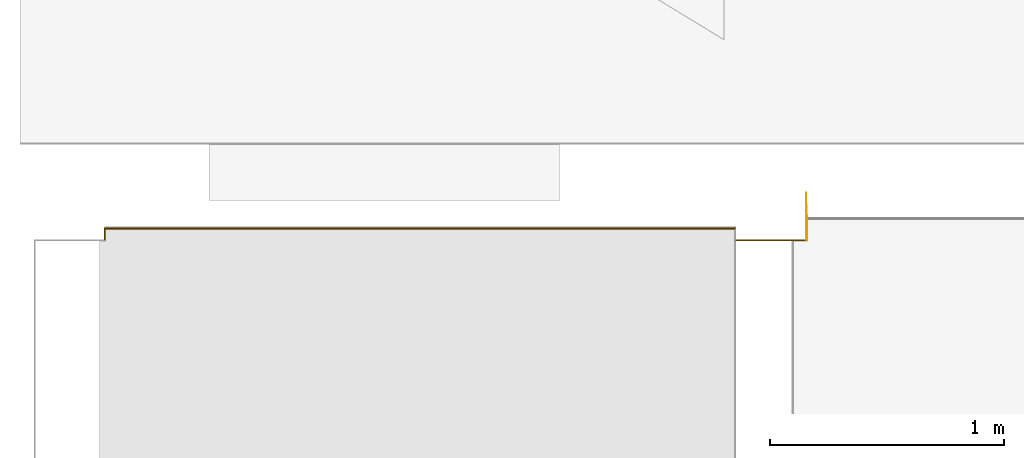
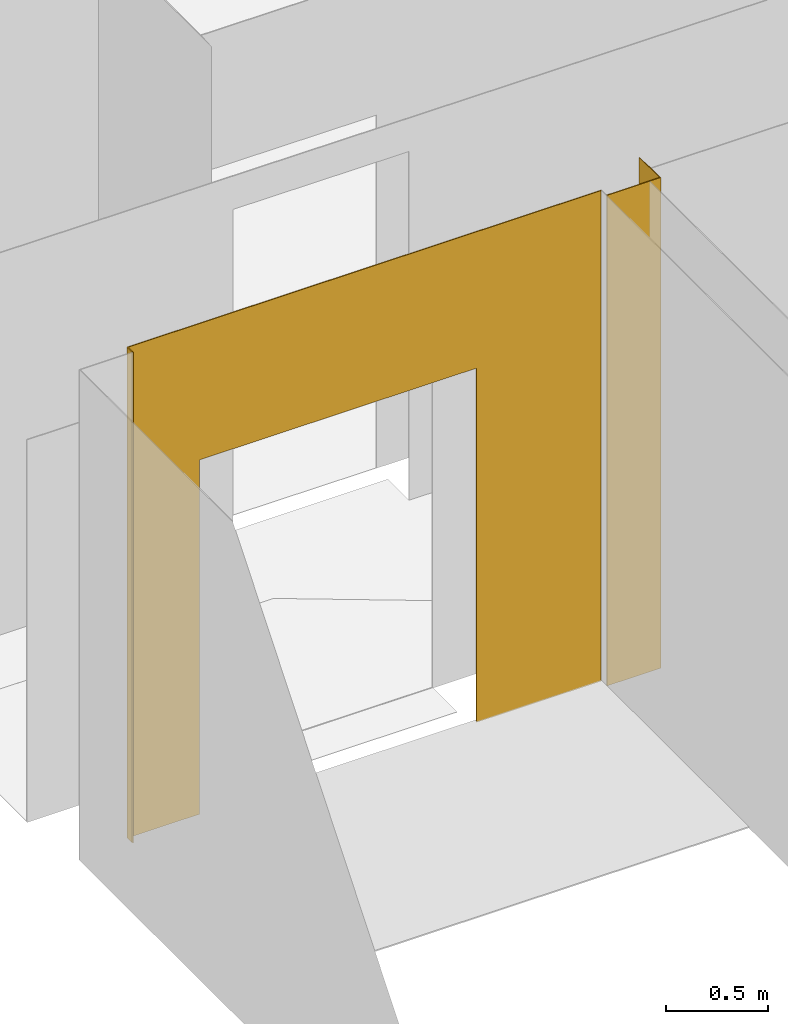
# One storey, part 3 of 16: 4 coverings, 1 opening.
"""IFC2X3 building model written with IfcOpenShell, lengths in millimetres."""

import ifcopenshell
import ifcopenshell.guid

model = None  # the IFC model being written
_history = None  # IfcOwnerHistory: only IFC2X3 demands one
_inside = {}  # id of a spatial element -> (the spatial element, [elements in it])
_under = {}  # id of a project, library or spatial element -> (it, [spatial elements below it])
_declared = {}  # id of a project -> (the project, [libraries it declares])
_typed = {}  # id of a type object -> (the type object, [elements of that type])
_made_of = {}  # id of a material, layer set ... -> (it, [elements and type objects made of it])


def new_model(schema):
    """Start an empty IFC model of exactly this schema.

    Asked for "IFC4X3", IfcOpenShell would pick the latest addendum, in which some entities
    have other attributes; the version numbers below select the first issue.
    IFC2X3 requires an IfcOwnerHistory on every rooted entity: one is made here for all.
    """
    global model, _history
    if schema == "IFC4X3":
        model = ifcopenshell.file(schema_version=(4, 3, 0, 0))
    else:
        model = ifcopenshell.file(schema=schema)
    _inside.clear()
    _under.clear()
    _declared.clear()
    _typed.clear()
    _made_of.clear()
    _history = None
    if model.schema == "IFC2X3":
        org = make("IfcOrganization", Name="unknown")
        user = make(
            "IfcPersonAndOrganization",
            ThePerson=make("IfcPerson", FamilyName="unknown"),
            TheOrganization=org,
        )
        app = make(
            "IfcApplication",
            ApplicationDeveloper=org,
            Version="unknown",
            ApplicationFullName="unknown",
            ApplicationIdentifier="unknown",
        )
        _history = make(
            "IfcOwnerHistory",
            OwningUser=user,
            OwningApplication=app,
            ChangeAction="ADDED",
            CreationDate=0,
        )
    return model


def make(cls, **values):
    """One entity of the class cls with the attributes given. An attribute that is None is left unset."""
    return model.create_entity(
        cls, **{name: value for name, value in values.items() if value is not None}
    )


def entity(cls, *values):
    """Any entity or typed value of the class cls, its attributes in the order of the schema. None: left unset."""
    e = model.create_entity(cls)
    for i, value in enumerate(values):
        if value is not None:
            e[i] = value
    return e


def rooted(cls, **values):
    """An entity with a GlobalId (a new one), such as an element, a storey or a relation."""
    return make(cls, GlobalId=ifcopenshell.guid.new(), OwnerHistory=_history, **values)


def si_unit(unit_type, name, prefix=None):
    """IfcSIUnit, for example si_unit("LENGTHUNIT", "METRE", prefix="MILLI")."""
    return make("IfcSIUnit", UnitType=unit_type, Prefix=prefix, Name=name)


def converted_unit(unit_type, name, factor, base, dimensions=None, offset=None):
    """IfcConversionBasedUnit, such as the inch: factor (a typed value) times the base unit."""
    return make(
        "IfcConversionBasedUnit"
        if offset is None
        else "IfcConversionBasedUnitWithOffset",
        ConversionOffset=offset,
        Dimensions=None
        if dimensions is None
        else entity("IfcDimensionalExponents", *dimensions),
        UnitType=unit_type,
        Name=name,
        ConversionFactor=make(
            "IfcMeasureWithUnit", ValueComponent=factor, UnitComponent=base
        ),
    )


def derived_unit(unit_type, elements):
    """IfcDerivedUnit: a product of units, each with its exponent."""
    return make(
        "IfcDerivedUnit",
        Elements=[
            make("IfcDerivedUnitElement", Unit=unit, Exponent=power)
            for unit, power in elements
        ],
        UnitType=unit_type,
    )


def money_unit(currency):
    """IfcMonetaryUnit."""
    return make("IfcMonetaryUnit", Currency=currency)


def assignment(units):
    """IfcUnitAssignment: the units of a project."""
    return None if units is None else make("IfcUnitAssignment", Units=units)


def point(xyz):
    """IfcCartesianPoint."""
    return None if xyz is None else make("IfcCartesianPoint", Coordinates=xyz)


def direction(xyz):
    """IfcDirection."""
    return None if xyz is None else make("IfcDirection", DirectionRatios=xyz)


def frame(location, z_axis=None, x_axis=None):
    """IfcAxis2Placement3D, a coordinate frame: its origin and axes. An axis left out is left unset."""
    return make(
        "IfcAxis2Placement3D",
        Location=point(location),
        Axis=direction(z_axis),
        RefDirection=direction(x_axis),
    )


def frame_2d(location, x_axis=None):
    """IfcAxis2Placement2D, a coordinate frame in the plane: its origin and x axis."""
    return make(
        "IfcAxis2Placement2D", Location=point(location), RefDirection=direction(x_axis)
    )


def origin_with_axes():
    """The frame at (0, 0, 0) with the z axis (0, 0, 1) and the x axis (1, 0, 0) written out."""
    return frame((0.0, 0.0, 0.0), z_axis=(0.0, 0.0, 1.0), x_axis=(1.0, 0.0, 0.0))


def origin_2d_with_axis():
    """The frame at (0, 0) in the plane with the x axis (1, 0) written out."""
    return frame_2d((0.0, 0.0), x_axis=(1.0, 0.0))


def place(relative_to, where):
    """IfcLocalPlacement: puts the frame where relative to a parent placement (None: the world)."""
    return make(
        "IfcLocalPlacement", PlacementRelTo=relative_to, RelativePlacement=where
    )


def context(
    kind, dimensions, precision=None, world=None, true_north=None, identifier=None
):
    """IfcGeometricRepresentationContext, for example the 3D "Model" context."""
    return make(
        "IfcGeometricRepresentationContext",
        ContextIdentifier=identifier,
        ContextType=kind,
        CoordinateSpaceDimension=dimensions,
        Precision=precision,
        WorldCoordinateSystem=world,
        TrueNorth=true_north,
    )


def subcontext(parent, identifier, kind, view, scale=None):
    """IfcGeometricRepresentationSubContext, for example "Body" below "Model"."""
    return make(
        "IfcGeometricRepresentationSubContext",
        ContextIdentifier=identifier,
        ContextType=kind,
        ParentContext=parent,
        TargetScale=scale,
        TargetView=view,
    )


def project(units=None, contexts=None):
    """IfcProject with its units and contexts."""
    return rooted(
        "IfcProject",
        Name="project",
        RepresentationContexts=contexts,
        UnitsInContext=assignment(units),
    )


def spatial(cls, under=None, at=None, **own):
    """A site, building, storey or space (cls), placed at a placement, below another one or the project."""
    s = rooted(cls, ObjectPlacement=at, **own)
    if under is not None:
        _under.setdefault(under.id(), (under, []))[1].append(s)
    return s


def polyline(points):
    """IfcPolyline through the points."""
    return make("IfcPolyline", Points=[point(p) for p in points])


def profile(cls, at=None, kind="AREA", **sizes):
    """A parametric profile (cls). Its sizes go by their IFC names, for example OverallWidth=200.0."""
    return make(cls, ProfileType=kind, Position=at, **sizes)


def rectangle(**sizes):
    """IfcRectangleProfileDef."""
    return profile("IfcRectangleProfileDef", **sizes)


def outline(outer, holes=None, kind="AREA"):
    """IfcArbitraryClosedProfileDef: a profile drawn as a closed curve; with holes, ...WithVoids."""
    if holes is None:
        return make("IfcArbitraryClosedProfileDef", ProfileType=kind, OuterCurve=outer)
    return make(
        "IfcArbitraryProfileDefWithVoids",
        ProfileType=kind,
        OuterCurve=outer,
        InnerCurves=holes,
    )


def extrude(swept, where, along, depth):
    """IfcExtrudedAreaSolid: the profile swept, set in the frame where, extruded along a direction by depth."""
    return make(
        "IfcExtrudedAreaSolid",
        SweptArea=swept,
        Position=where,
        ExtrudedDirection=direction(along),
        Depth=depth,
    )


def shape(context_of_items, identifier, shape_type, items):
    """IfcShapeRepresentation: the items that make up one representation, for example the "Body"."""
    return make(
        "IfcShapeRepresentation",
        ContextOfItems=context_of_items,
        RepresentationIdentifier=identifier,
        RepresentationType=shape_type,
        Items=items,
    )


def material(Name=None, Category=None):
    """IfcMaterial."""
    return make("IfcMaterial", Name=Name, Category=Category)


def made_of(thing, what):
    """Note that an element or type object is made of a material, layer set ...; save() writes the relation."""
    if what is not None:
        _made_of.setdefault(what.id(), (what, []))[1].append(thing)
    return thing


def type_object(cls, material=None, **own):
    """A type object (cls), such as IfcWallType, which elements share."""
    return made_of(rooted(cls, **own), material)


def element(
    cls,
    number,
    at=None,
    inside=None,
    cuts=None,
    type_object=None,
    material=None,
    context=None,
    identifier="Body",
    shape_type=None,
    held_by="IfcProductDefinitionShape",
    body=None,
    shapes=None,
    **own,
):
    """One element of the class cls, such as IfcWall. Its Tag is "e" and its number.

    at: its placement. inside: the storey or other place that contains it. cuts: it is an
    opening in that element (IfcRelVoidsElement). A single representation is given by context,
    identifier, shape_type and body (its items); several are given by shapes. held_by: the class
    of the entity that holds the representations. save() writes the other relations.
    """
    e = rooted(cls, Tag="e%d" % number, ObjectPlacement=at, **own)
    if body is not None:
        shapes = [shape(context, identifier, shape_type, body)]
    if shapes is not None:
        e.Representation = make(held_by, Representations=shapes)
    if inside is not None:
        _inside.setdefault(inside.id(), (inside, []))[1].append(e)
    if cuts is not None:
        rooted(
            "IfcRelVoidsElement", RelatingBuildingElement=cuts, RelatedOpeningElement=e
        )
    if type_object is not None:
        _typed.setdefault(type_object.id(), (type_object, []))[1].append(e)
    return made_of(e, material)


def aggregate(whole, parts):
    """IfcRelAggregates: a whole, such as a stair, and the parts it consists of."""
    return rooted("IfcRelAggregates", RelatingObject=whole, RelatedObjects=parts)


def save(model, path):
    """Write the relations noted so far, then the file.

    IfcRelAggregates (storeys below a building ...), IfcRelContainedInSpatialStructure (elements
    in a storey), IfcRelDefinesByType, IfcRelAssociatesMaterial and IfcRelDeclares: one each for
    every whole, place, type object, material and project.
    """
    for whole, parts in _under.values():
        aggregate(whole, parts)
    for where, things in _inside.values():
        rooted(
            "IfcRelContainedInSpatialStructure",
            RelatedElements=things,
            RelatingStructure=where,
        )
    for kind, things in _typed.values():
        rooted("IfcRelDefinesByType", RelatedObjects=things, RelatingType=kind)
    for what, things in _made_of.values():
        rooted("IfcRelAssociatesMaterial", RelatedObjects=things, RelatingMaterial=what)
    for by, libraries in _declared.values():
        rooted("IfcRelDeclares", RelatingContext=by, RelatedDefinitions=libraries)
    model.write(path)


model = new_model("IFC2X3")

# Units and contexts
model_context = context("Model", 3, precision=0.01, world=origin_with_axes(), true_north=direction((0.0, 1.0)))
body_context = subcontext(model_context, "Body", "Model", "MODEL_VIEW")
ifc_project = project(units=[si_unit("LENGTHUNIT", "METRE", prefix="MILLI"), si_unit("AREAUNIT", "SQUARE_METRE"), si_unit("VOLUMEUNIT", "CUBIC_METRE"), converted_unit("PLANEANGLEUNIT", "DEGREE", entity("IfcPlaneAngleMeasure", 0.0174532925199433), si_unit("PLANEANGLEUNIT", "RADIAN"), dimensions=[0, 0, 0, 0, 0, 0, 0]), money_unit("EUR"), converted_unit("TIMEUNIT", "Year", entity("IfcTimeMeasure", 31556926.0), si_unit("TIMEUNIT", "SECOND"), dimensions=[0, 0, 1, 0, 0, 0, 0]), si_unit("MASSUNIT", "GRAM", prefix="KILO"), si_unit("THERMODYNAMICTEMPERATUREUNIT", "DEGREE_CELSIUS"), si_unit("LUMINOUSINTENSITYUNIT", "LUMEN"), si_unit("ENERGYUNIT", "JOULE", prefix="MEGA"), derived_unit("THERMALCONDUCTANCEUNIT", [(si_unit("POWERUNIT", "WATT"), 1), (si_unit("LENGTHUNIT", "METRE"), -1), (si_unit("THERMODYNAMICTEMPERATUREUNIT", "KELVIN"), -1)]), derived_unit("SPECIFICHEATCAPACITYUNIT", [(si_unit("ENERGYUNIT", "JOULE"), 1), (si_unit("MASSUNIT", "GRAM", prefix="KILO"), -1), (si_unit("THERMODYNAMICTEMPERATUREUNIT", "KELVIN"), -1)]), derived_unit("MASSDENSITYUNIT", [(si_unit("MASSUNIT", "GRAM", prefix="KILO"), 1), (si_unit("VOLUMEUNIT", "CUBIC_METRE"), -1)])], contexts=[model_context])

# Site, building, storey
site_placement = place(None, origin_with_axes())
site = spatial("IfcSite", under=ifc_project, at=site_placement, Name="Paldiski mnt 245/1, Tallinn, Harjumaa", CompositionType="COMPLEX")
building_placement = place(site_placement, origin_with_axes())
building = spatial("IfcBuilding", under=site, at=building_placement, Name="RKAS Hoone üldnimetus (kasutust iseloomustav) -> IFC Project Manager -> SOLIBRI", CompositionType="ELEMENT")
storey_placement = place(building_placement, frame((0.0, 0.0, 3300.0), z_axis=(0.0, 0.0, 1.0), x_axis=(1.0, 0.0, 0.0)))
storey = spatial("IfcBuildingStorey", under=building, at=storey_placement, Name="Teine korrus", CompositionType="ELEMENT", Elevation=3300.0)

# Coverings
ifc_material = material(Name="SA- Värv SM5(valge)")
covering_type = type_object("IfcCoveringType", Name="SA- Värv SM5(valge) 5", PredefinedType="CLADDING")
covering_1_placement = place(storey_placement, frame((-44290.00000000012, -6479.999999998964, 0.0), z_axis=(0.0, 0.0, 1.0), x_axis=(-1.0, 0.0, 0.0)))
element("IfcCovering", 1, at=covering_1_placement, inside=storey, type_object=covering_type, material=ifc_material, Name="SM5", PredefinedType="CLADDING", context=body_context, shape_type="SweptSolid", body=[
    extrude(outline(polyline([(0.0, 0.0), (299.9999419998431, 0.0), (299.9999361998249, 4.999999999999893), (-4.999999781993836, 4.999999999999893), (0.0, 0.0)])), origin_with_axes(), (0.0, 0.0, 1.0), 2950.0),
])
covering_2_placement = place(storey_placement, frame((-44289.99999598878, -6387.99999999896, 0.0), z_axis=(0.0, 0.0, 1.0), x_axis=(-4.360145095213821e-08, -0.9999999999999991, 0.0)))
element("IfcCovering", 2, at=covering_2_placement, inside=storey, type_object=covering_type, material=ifc_material, Name="SM5", PredefinedType="CLADDING", context=body_context, shape_type="SweptSolid", body=[
    extrude(outline(polyline([(-107.9999999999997, 0.0), (92.0000000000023, 0.0), (96.99999978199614, 5.000000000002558), (-2.180078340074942e-07, 5.000000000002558), (-107.9999999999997, 0.0)])), origin_with_axes(), (0.0, 0.0, 1.0), 2950.0),
])

# Covering, opening
covering_3_placement = place(storey_placement, frame((-47290.00003058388, -6429.999923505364, 0.0), z_axis=(0.0, 0.0, 1.0), x_axis=(0.9999999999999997, -2.833095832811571e-08, 0.0)))
covering_3 = element("IfcCovering", 3, at=covering_3_placement, inside=storey, type_object=covering_type, material=ifc_material, Name="SM5", PredefinedType="CLADDING", context=body_context, shape_type="SweptSolid", body=[
    extrude(outline(polyline([(5.000003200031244, -4.999999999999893), (2695.000036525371, -4.999999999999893), (2700.000030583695, 0.0), (5.000000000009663, 0.0), (5.000003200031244, -4.999999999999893)])), origin_with_axes(), (0.0, 0.0, 1.0), 2950.0),
])
opening_placement = place(covering_3_placement, frame((47289.9998484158, 6430.001263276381, -3300.0), z_axis=(0.0, 0.0, 1.0), x_axis=(0.9999999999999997, 2.833095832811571e-08, 0.0)))
element("IfcOpeningElement", 4, at=opening_placement, cuts=covering_3, Name="AVA", ObjectType="OPENING", context=body_context, shape_type="SweptSolid", body=[
    extrude(rectangle(XDim=1576.084868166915, YDim=2130.065168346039, at=origin_2d_with_axis()), frame((-46091.63608730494, -6440.00007649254, 4365.032584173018), z_axis=(-2.833095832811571e-08, -0.9999999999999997, 0.0), x_axis=(0.9999999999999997, -2.833095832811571e-08, 0.0)), (0.0, 0.0, -1.0), 15.00022948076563),
])

# Covering
covering_4_placement = place(storey_placement, frame((-47290.00000000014, -6479.999999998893, 0.0), z_axis=(0.0, 0.0, 1.0), x_axis=(-6.116739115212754e-07, 0.9999999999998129, 0.0)))
element("IfcCovering", 5, at=covering_4_placement, inside=storey, type_object=covering_type, material=ifc_material, Name="SM5", PredefinedType="CLADDING", context=body_context, shape_type="SweptSolid", body=[
    extrude(outline(polyline([(-5.000003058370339, -5.000000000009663), (49.99999694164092, -5.000000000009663), (50.00000000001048, 0.0), (0.0, 0.0), (-5.000003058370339, -5.000000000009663)])), origin_with_axes(), (0.0, 0.0, 1.0), 2950.0),
])

save(model, "model.ifc")
